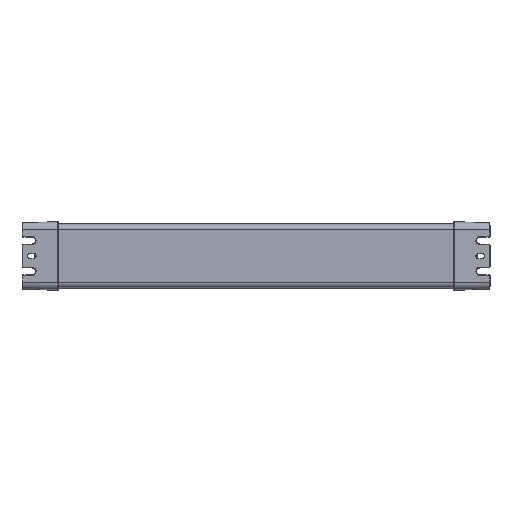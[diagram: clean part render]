
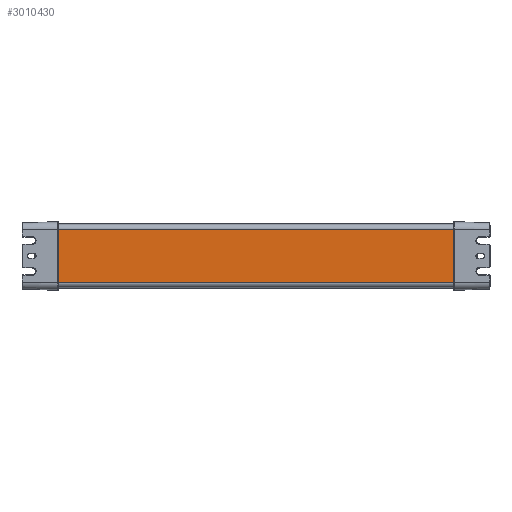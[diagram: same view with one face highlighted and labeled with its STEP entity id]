
A CAD part, top view. The second image highlights one B-rep face of the part: STEP entity #3010430.
In plain terms, the highlighted planar face has unit normal (0, 0, 1) as drawn and (0, 0, -1) by its records, which use the part's own axes.
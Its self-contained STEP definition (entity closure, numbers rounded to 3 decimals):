
#1122060=CARTESIAN_POINT('',(205.39,34.786,
-20.5));
#1122070=VERTEX_POINT('',#1122060);
#1122100=CARTESIAN_POINT('',(205.39,-22.989,
-20.5));
#1122110=DIRECTION('',(0.,1.,0.));
#1122120=VECTOR('',#1122110,1.);
#1122130=LINE('',#1122100,#1122120);
#1122140=CARTESIAN_POINT('',(205.39,-20.414,
-20.5));
#1122150=VERTEX_POINT('',#1122140);
#1122160=EDGE_CURVE('',#1122150,#1122070,#1122130,.T.);
#2067260=CARTESIAN_POINT('',(-202.21,-20.414,
-20.5));
#2067270=VERTEX_POINT('',#2067260);
#2067300=CARTESIAN_POINT('',(-202.21,-22.989,
-20.5));
#2067310=DIRECTION('',(0.,-1.,0.));
#2067320=VECTOR('',#2067310,1.);
#2067330=LINE('',#2067300,#2067320);
#2067340=CARTESIAN_POINT('',(-202.21,34.786,
-20.5));
#2067350=VERTEX_POINT('',#2067340);
#2067360=EDGE_CURVE('',#2067350,#2067270,#2067330,.T.);
#3010170=CARTESIAN_POINT('',(-218.71,-20.414,
-20.5));
#3010180=DIRECTION('',(1.,0.,0.));
#3010190=VECTOR('',#3010180,1.);
#3010200=LINE('',#3010170,#3010190);
#3010210=EDGE_CURVE('',#2067270,#1122150,#3010200,.T.);
#3010270=CARTESIAN_POINT('',(-218.71,7.186,
-20.5));
#3010280=DIRECTION('',(0.,0.,-1.));
#3010290=DIRECTION('',(0.,1.,0.));
#3010300=AXIS2_PLACEMENT_3D('',#3010270,#3010280,#3010290);
#3010310=PLANE('',#3010300);
#3010320=ORIENTED_EDGE('',*,*,#3010210,.F.);
#3010330=ORIENTED_EDGE('',*,*,#1122160,.F.);
#3010340=CARTESIAN_POINT('',(-218.71,34.786,
-20.5));
#3010350=DIRECTION('',(1.,0.,0.));
#3010360=VECTOR('',#3010350,1.);
#3010370=LINE('',#3010340,#3010360);
#3010380=EDGE_CURVE('',#2067350,#1122070,#3010370,.T.);
#3010390=ORIENTED_EDGE('',*,*,#3010380,.T.);
#3010400=ORIENTED_EDGE('',*,*,#2067360,.F.);
#3010410=EDGE_LOOP('',(#3010400,#3010390,#3010330,#3010320));
#3010420=FACE_OUTER_BOUND('',#3010410,.T.);
#3010430=ADVANCED_FACE('',(#3010420),#3010310,.T.);
